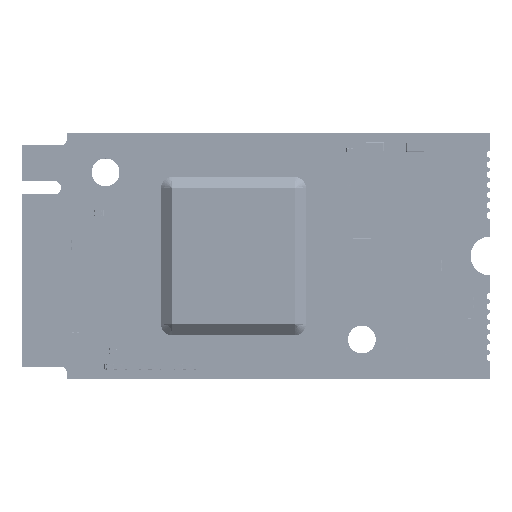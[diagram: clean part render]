
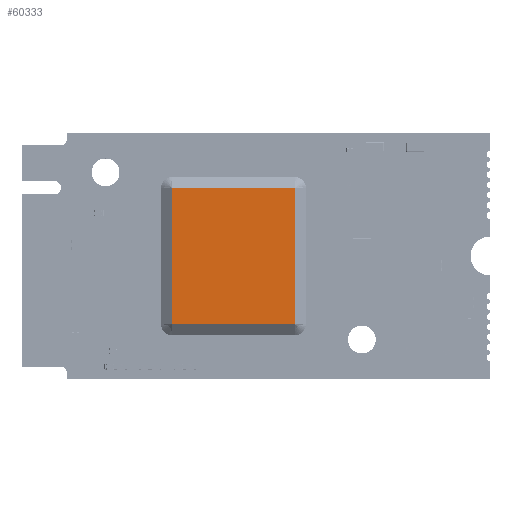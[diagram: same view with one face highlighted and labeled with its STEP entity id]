
A CAD part, top view. The second image highlights one B-rep face of the part: STEP entity #60333.
In plain terms, the highlighted planar face has unit normal (0, 0, 1).
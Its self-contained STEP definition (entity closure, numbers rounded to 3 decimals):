
#318=DIRECTION ( 'NONE',  ( 0., 0., -1. ) ) ;
#812=DIRECTION ( 'NONE',  ( 0., 1., 0. ) ) ;
#7715=ORIENTED_EDGE ( 'NONE', *, *, #78853, .F. ) ;
#8018=CARTESIAN_POINT ( 'NONE',  ( 31.481, 24.111, 2.658 ) ) ;
#13252=DIRECTION ( 'NONE',  ( 0., 0., 1. ) ) ;
#14535=CARTESIAN_POINT ( 'NONE',  ( 20.481, 24.09, 2.658 ) ) ;
#20310=EDGE_CURVE ( 'NONE', #326290, #63337, #224162, .T. ) ;
#21295=CARTESIAN_POINT ( 'NONE',  ( 20.481, 11.87, 2.658 ) ) ;
#25195=ORIENTED_EDGE ( 'NONE', *, *, #296017, .F. ) ;
#30206=CIRCLE ( 'NONE', #84352, 0.02 ) ;
#35973=CARTESIAN_POINT ( 'NONE',  ( 31.481, 11.87, 2.658 ) ) ;
#39071=EDGE_CURVE ( 'NONE', #90894, #324480, #48420, .T. ) ;
#44898=CARTESIAN_POINT ( 'NONE',  ( 20.481, 11.87, 2.658 ) ) ;
#48420=CIRCLE ( 'NONE', #335968, 0.02 ) ;
#58488=FACE_OUTER_BOUND ( 'NONE', #223516, .T. ) ;
#60333=ADVANCED_FACE ( 'NONE', ( #58488 ), #143111, .T. ) ;
#62647=ORIENTED_EDGE ( 'NONE', *, *, #156701, .F. ) ;
#63337=VERTEX_POINT ( 'NONE', #133286 ) ;
#72514=ORIENTED_EDGE ( 'NONE', *, *, #254881, .F. ) ;
#78853=EDGE_CURVE ( 'NONE', #63337, #251711, #324273, .T. ) ;
#84352=AXIS2_PLACEMENT_3D ( 'NONE', #14535, #318, #232088 ) ;
#87591=CARTESIAN_POINT ( 'NONE',  ( 31.502, 11.89, 2.658 ) ) ;
#90894=VERTEX_POINT ( 'NONE', #44898 ) ;
#95396=CARTESIAN_POINT ( 'NONE',  ( 20.461, 11.89, 2.658 ) ) ;
#110593=DIRECTION ( 'NONE',  ( 0., -1., 0. ) ) ;
#113397=CARTESIAN_POINT ( 'NONE',  ( 20.461, 24.09, 2.658 ) ) ;
#119625=VECTOR ( 'NONE', #239338, 1000. ) ;
#133286=CARTESIAN_POINT ( 'NONE',  ( 31.502, 11.89, 2.658 ) ) ;
#135796=VERTEX_POINT ( 'NONE', #113397 ) ;
#143111=PLANE ( 'NONE',  #276203 ) ;
#149846=LINE ( 'NONE', #8018, #170421 ) ;
#156701=EDGE_CURVE ( 'NONE', #251711, #90894, #252123, .T. ) ;
#157968=CARTESIAN_POINT ( 'NONE',  ( 31.502, 24.09, 2.658 ) ) ;
#166293=CARTESIAN_POINT ( 'NONE',  ( 25.981, 17.99, 2.658 ) ) ;
#169696=ORIENTED_EDGE ( 'NONE', *, *, #39071, .F. ) ;
#170421=VECTOR ( 'NONE', #250559, 1000. ) ;
#181664=EDGE_CURVE ( 'NONE', #324480, #135796, #316522, .T. ) ;
#204948=ORIENTED_EDGE ( 'NONE', *, *, #20310, .F. ) ;
#223516=EDGE_LOOP ( 'NONE', ( #204948, #72514, #25195, #288430, #169696, #62647, #7715 ) ) ;
#224162=LINE ( 'NONE', #87591, #227985 ) ;
#226616=CARTESIAN_POINT ( 'NONE',  ( 31.502, 11.879, 2.658 ) ) ;
#227985=VECTOR ( 'NONE', #110593, 1000. ) ;
#230304=CARTESIAN_POINT ( 'NONE',  ( 20.461, 24.09, 2.658 ) ) ;
#232088=DIRECTION ( 'NONE',  ( 0.741, 0.672, 0. ) ) ;
#239338=DIRECTION ( 'NONE',  ( 0., 1., 0. ) ) ;
#248310=CARTESIAN_POINT ( 'NONE',  ( 31.493, 11.87, 2.658 ) ) ;
#250559=DIRECTION ( 'NONE',  ( 1., 0., 0. ) ) ;
#251711=VERTEX_POINT ( 'NONE', #35973 ) ;
#252123=LINE ( 'NONE', #21295, #263446 ) ;
#254881=EDGE_CURVE ( 'NONE', #281139, #326290, #149846, .T. ) ;
#260130=DIRECTION ( 'NONE',  ( -1., 0., 0. ) ) ;
#263446=VECTOR ( 'NONE', #260130, 1000. ) ;
#276203=AXIS2_PLACEMENT_3D ( 'NONE', #166293, #13252, #812 ) ;
#280536=CARTESIAN_POINT ( 'NONE',  ( 20.481, 11.89, 2.658 ) ) ;
#281139=VERTEX_POINT ( 'NONE', #302062 ) ;
#288430=ORIENTED_EDGE ( 'NONE', *, *, #181664, .F. ) ;
#296017=EDGE_CURVE ( 'NONE', #135796, #281139, #30206, .T. ) ;
#302062=CARTESIAN_POINT ( 'NONE',  ( 20.481, 24.111, 2.658 ) ) ;
#304452=DIRECTION ( 'NONE',  ( 0.762, 0.647, 0. ) ) ;
#316522=LINE ( 'NONE', #230304, #119625 ) ;
#324273=( BOUNDED_CURVE ( )  B_SPLINE_CURVE ( 3, ( #133286, #226616, #248310, #35973 ), .UNSPECIFIED., .F., .F. ) B_SPLINE_CURVE_WITH_KNOTS ( ( 4, 4 ), ( 5.452, 7.022 ), .UNSPECIFIED. ) CURVE ( )  GEOMETRIC_REPRESENTATION_ITEM ( )  RATIONAL_B_SPLINE_CURVE ( ( 1., 0.805, 0.805, 1. ) ) REPRESENTATION_ITEM ( '' )  );
#324480=VERTEX_POINT ( 'NONE', #95396 ) ;
#326290=VERTEX_POINT ( 'NONE', #157968 ) ;
#335968=AXIS2_PLACEMENT_3D ( 'NONE', #280536, #318, #304452 ) ;
